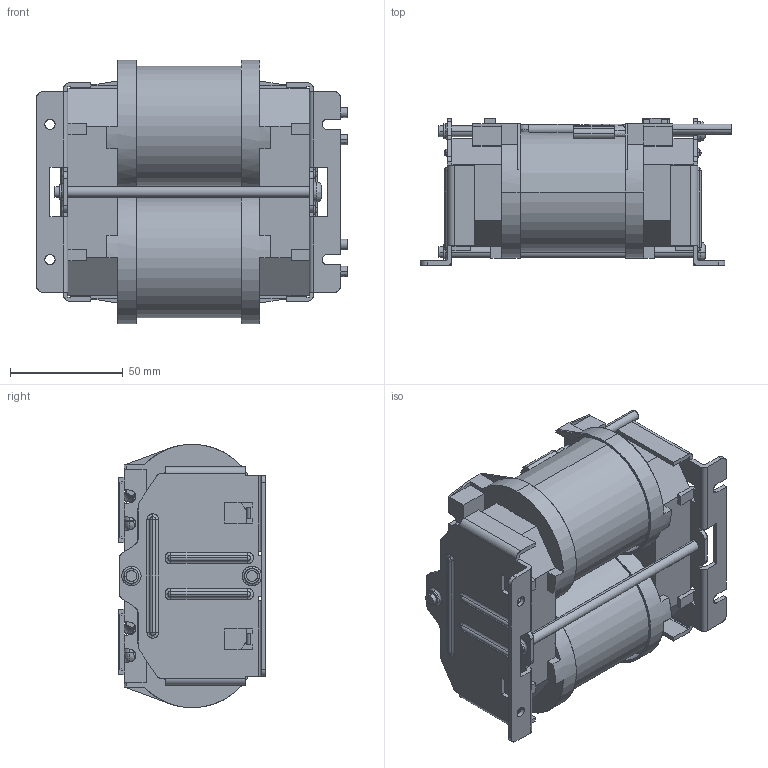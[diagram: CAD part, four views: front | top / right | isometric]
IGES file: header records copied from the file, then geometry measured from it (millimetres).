
Start section: SolidWorks IGES file using analytic representation for surfaces
Global section: file name: \\10.106.230.1\r&d file\05_COMP\02_Mechanical\10_Others\PV_RT 81\网络用3D模型\卧式模型\网络用模型\SF13235B-PH00DS20R(H-5KW_ACL-P).IGS,15HSolidWorks; native system: 2009; preprocessor: SolidWorks 2009; author: test; date: 120508.153805; units: millimetre
Bounding box: 138 x 65.25 x 116.9 mm (x, y, z)
Surface area: 132074.9 mm2 (no closed solid volume)
Topology: 0 solids, 0 shells, 875 faces, 10215 edges, 10192 vertices
Faces by surface type: bspline 567, revolution 308
